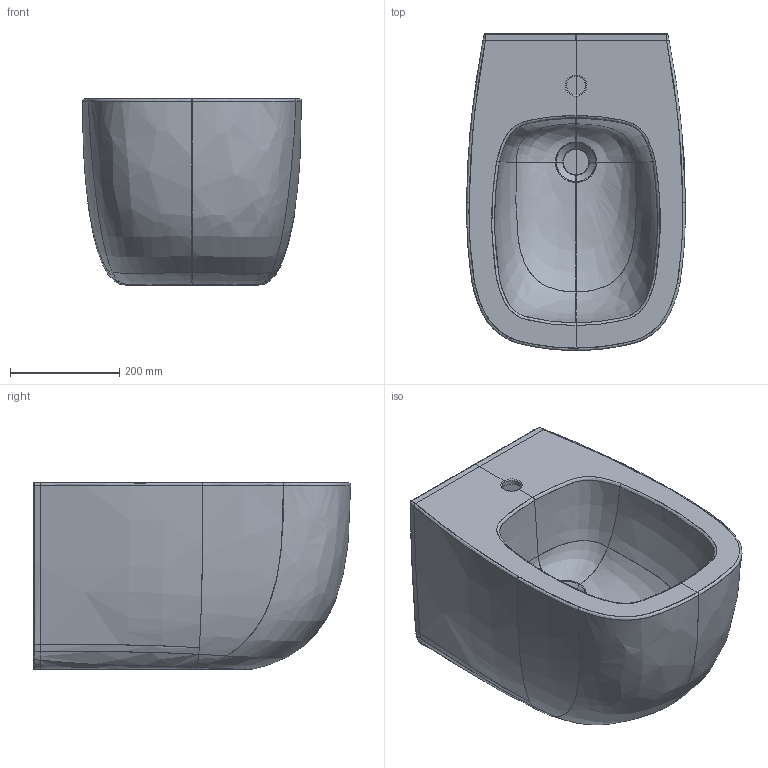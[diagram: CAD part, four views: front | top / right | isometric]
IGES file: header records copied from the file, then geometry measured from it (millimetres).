
Start section: START RECORD GO HERE.
Global section: file name: 3D_7512.igs; native system: DASSAULT SYSTEMES CATIA V5 R19 - www.3ds.com; preprocessor: CATIA Version 5 Release 19 SP 5 ; author: Luca; organization: DESKTOP-V7SON24; date: 20230523.151234; units: millimetre
Bounding box: 400.31 x 580.06 x 340.48 mm (x, y, z)
Surface area: 1018544.9 mm2 (no closed solid volume)
Topology: 0 solids, 0 shells, 100 faces, 456 edges, 453 vertices
Faces by surface type: bspline 89, plane 7, revolution 4
